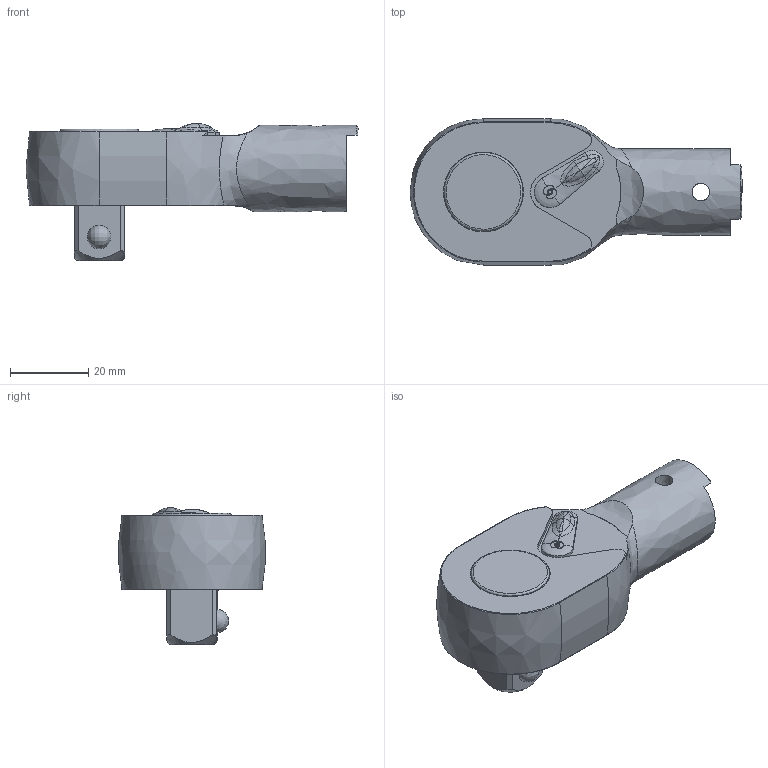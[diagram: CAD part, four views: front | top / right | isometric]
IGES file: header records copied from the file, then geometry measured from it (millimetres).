
Global section: file name: QH15D; native system: Autodesk Inventor 2022; preprocessor: unknown; author: Q532; date: 20211110.121543; units: millimetre
Bounding box: 84.75 x 37.3 x 35 mm (x, y, z)
Volume: 41852.5 mm3; surface area: 9849.6 mm2
Topology: 1 solids, 1 shells, 88 faces, 244 edges, 157 vertices
Faces by surface type: bspline 88
